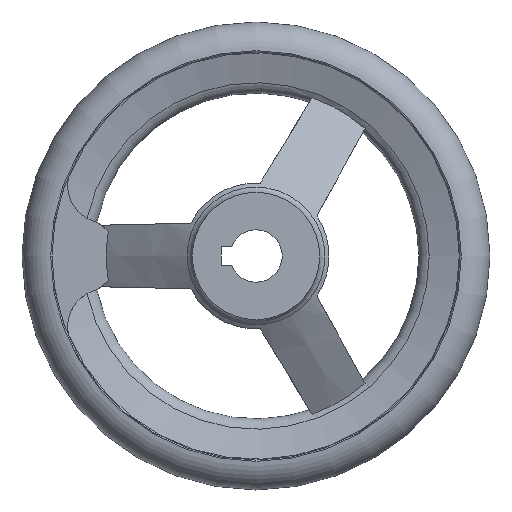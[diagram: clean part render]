
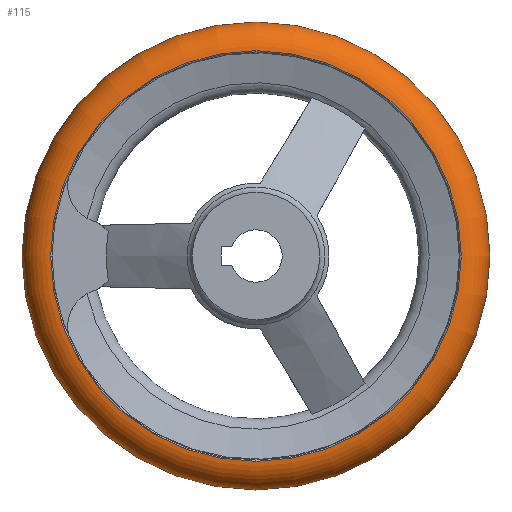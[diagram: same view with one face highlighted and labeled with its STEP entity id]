
A CAD part, left-side view. The second image highlights one B-rep face of the part: STEP entity #115.
In plain terms, the highlighted toroidal (fillet/blend) face has major radius 54.5 mm and minor radius 8 mm.
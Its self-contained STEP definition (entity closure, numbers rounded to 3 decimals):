
#115 = ADVANCED_FACE( '', ( #224, #225, #226 ), #227, .T. );
#224 = FACE_BOUND( '', #383, .T. );
#225 = FACE_OUTER_BOUND( '', #384, .T. );
#226 = FACE_OUTER_BOUND( '', #385, .T. );
#227 = TOROIDAL_SURFACE( '', #386, 54.5, 8. );
#383 = VERTEX_LOOP( '', #731 );
#384 = EDGE_LOOP( '', ( #732 ) );
#385 = EDGE_LOOP( '', ( #733 ) );
#386 = AXIS2_PLACEMENT_3D( '', #734, #735, #736 );
#731 = VERTEX_POINT( '', #905 );
#732 = ORIENTED_EDGE( '', *, *, #906, .T. );
#733 = ORIENTED_EDGE( '', *, *, #907, .F. );
#734 = CARTESIAN_POINT( '', ( 36., 0., 0. ) );
#735 = DIRECTION( '', ( 1., 0., 0. ) );
#736 = DIRECTION( '', ( 0., 1., 0. ) );
#905 = CARTESIAN_POINT( '', ( 36., 62.5, 0. ) );
#906 = EDGE_CURVE( '', #1102, #1102, #1103, .T. );
#907 = EDGE_CURVE( '', #1104, #1104, #1105, .T. );
#1102 = VERTEX_POINT( '', #1696 );
#1103 = CIRCLE( '', #1697, 54.833 );
#1104 = VERTEX_POINT( '', #1698 );
#1105 = CIRCLE( '', #1699, 54.833 );
#1696 = CARTESIAN_POINT( '', ( 28.007, 54.833, 0. ) );
#1697 = AXIS2_PLACEMENT_3D( '', #1869, #1870, #1871 );
#1698 = CARTESIAN_POINT( '', ( 43.993, 54.833, 0. ) );
#1699 = AXIS2_PLACEMENT_3D( '', #1872, #1873, #1874 );
#1869 = CARTESIAN_POINT( '', ( 28.007, 0., 0. ) );
#1870 = DIRECTION( '', ( 1., 0., 0. ) );
#1871 = DIRECTION( '', ( 0., 1., 0. ) );
#1872 = CARTESIAN_POINT( '', ( 43.993, 0., 0. ) );
#1873 = DIRECTION( '', ( 1., 0., 0. ) );
#1874 = DIRECTION( '', ( 0., 1., 0. ) );
